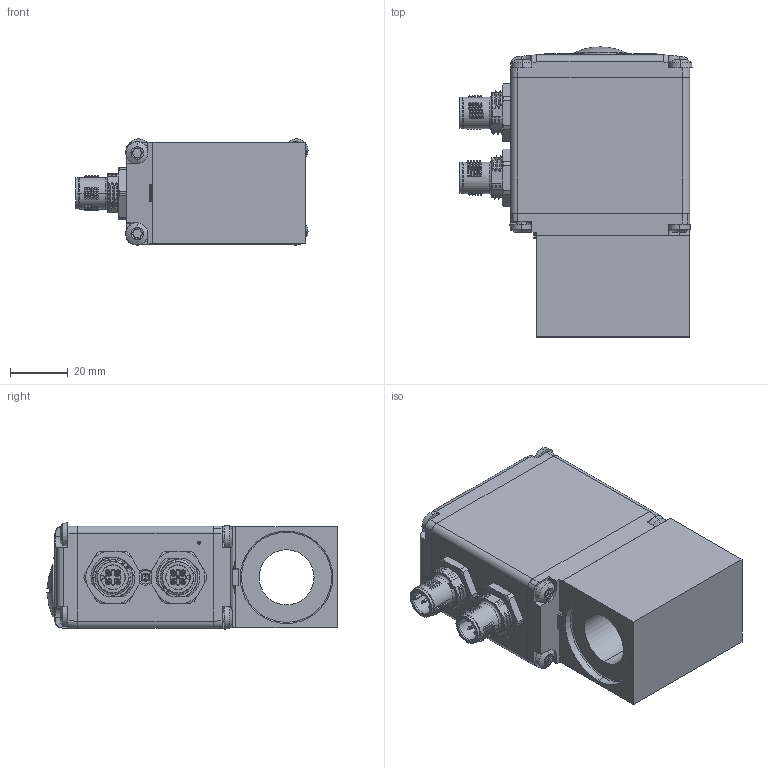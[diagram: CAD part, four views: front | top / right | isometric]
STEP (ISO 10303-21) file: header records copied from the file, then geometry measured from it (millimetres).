
FILE_DESCRIPTION (( 'STEP AP214' ), '1' );
FILE_NAME ('C1.STEP', '2017-03-23T14:46:36', ( '' ), ( '' ), 'SwSTEP 2.0', 'SolidWorks 2016', '' );
FILE_SCHEMA (( 'AUTOMOTIVE_DESIGN' ));
Length unit declared in the file: millimetre
Products named in the file (1): C1
Bounding box: 80.3 x 100.39 x 36.78 mm (x, y, z)
Volume: 109925.8 mm3; surface area: 54291.5 mm2
Topology: 15 solids, 40 shells, 3077 faces, 8252 edges, 5342 vertices
Faces by surface type: plane 1510, cylinder 980, torus 217, cone 180, bspline 158, sphere 32
Entity records: 230841 total; most frequent: CARTESIAN_POINT 121916, ORIENTED_EDGE 16432, DIRECTION 14793, EDGE_CURVE 8216, VERTEX_POINT 5342, LINE 5039, VECTOR 5039, AXIS2_PLACEMENT_3D 4877
